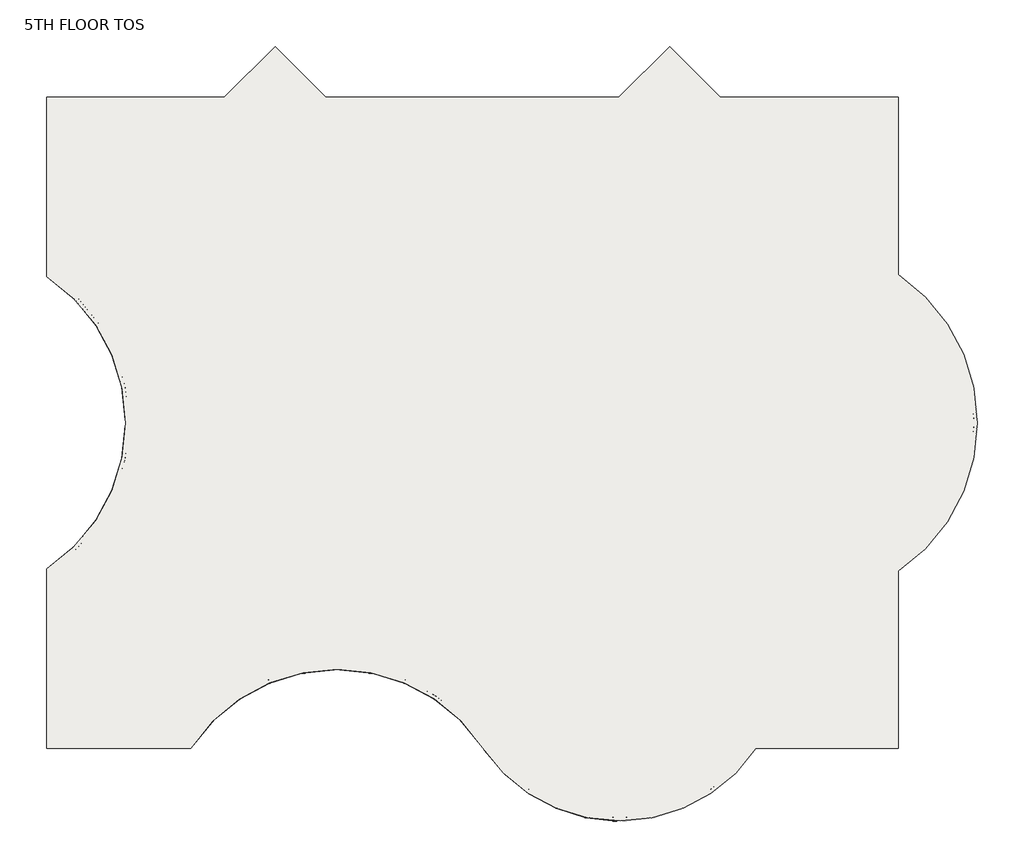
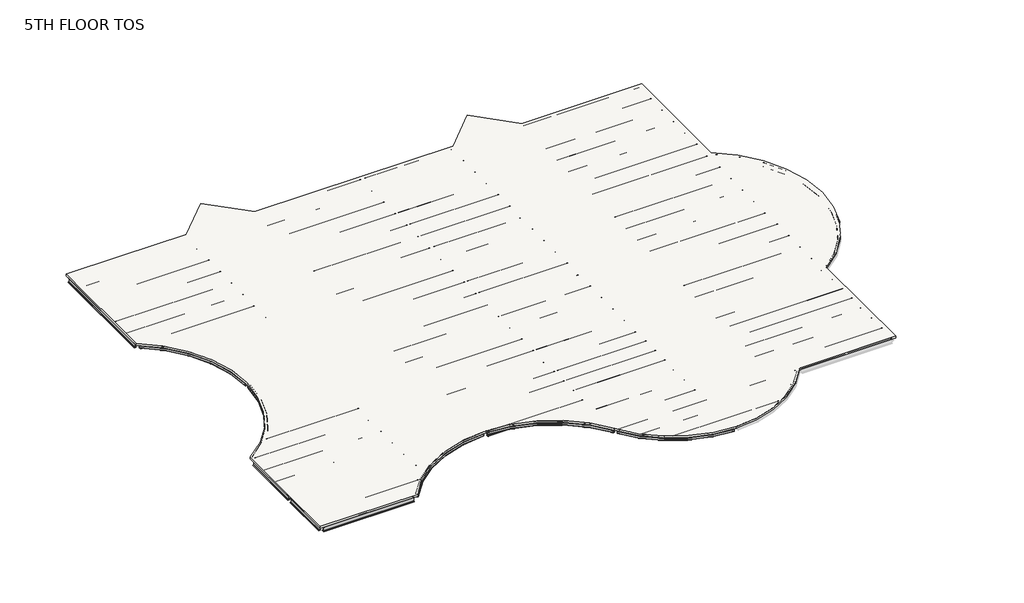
# One storey, part 1 of 2: 86 beams, 1 slab.
"""IFC4 building model written with IfcOpenShell, lengths in millimetres."""

from ifc_helpers import new_model, si_unit, frame, origin, place, context, project, spatial, polyline, circle_curve, transform, mapped, element, save
from ifc_brep_helpers import plane_surface, cylinder_surface, revolved_surface, advanced_brep
from components import m_hss_square_hss203_2x203_2x9_5_914ff4eb, m_hss_square_hss203_2x203_2x9_5_0e3d8e6e, m_hss_square_hss203_2x203_2x9_5_16dc1c03, m_hss_square_hss203_2x203_2x9_5_18346204, m_hss_square_hss203_2x203_2x9_5_d5f1e8c4, ub_universal_beams_ub254x102x28_4e7f3726, ub_universal_beams_ub305x165x40_c4d0385b, ub_universal_beams_ub305x165x40_d3abc31d, ub_universal_beams_ub305x165x40_0c73730f, ub_universal_beams_ub305x165x40_2a963f0c, ub_universal_beams_ub305x165x40_0a5f2f96, ub_universal_beams_ub305x165x40_d1f7c369, ub_universal_beams_ub305x165x40_83d7b7d5, ub_universal_beams_ub305x165x40_729a4ea5, ub_universal_beams_ub305x165x40_71dfa851, ub_universal_beams_ub305x165x40_619b5398, ub_universal_beams_ub305x165x40_c3492db1, ub_universal_beams_ub305x165x40_8f1c350d, ub_universal_beams_ub305x165x40_3afb5f90, ub_universal_beams_ub305x165x40_767d1929, ub_universal_beams_ub305x165x40_5941ca45, ub_universal_beams_ub356x171x51_ef72dcdd, ub_universal_beams_ub356x171x51_7f80702c, ub_universal_beams_ub356x171x51_dfc36663, ub_universal_beams_ub356x171x51_405a853e, ub_universal_beams_ub356x171x51_e47b7055, ub_universal_beams_ub356x171x51_e97f8d2e, ub_universal_beams_ub356x171x51_11d6b780, ub_universal_beams_ub356x171x51_76b2d20b, ub_universal_beams_ub356x171x51_145ecd4b, ub_universal_beams_ub356x171x51_c7dff8d2, ub_universal_beams_ub356x171x51_834c6e34, ub_universal_beams_ub356x171x51_a38b99de, ub_universal_beams_ub356x171x51_d8f4cdde, ub_universal_beams_ub356x171x51_8094f821, ub_universal_beams_ub356x171x51_e661f2e4, ub_universal_beams_ub356x171x51_3ee91673, ub_universal_beams_ub356x171x51_a871b283, ub_universal_beams_ub356x171x51_741bae58

model = new_model("IFC4")

# Units and contexts
model_context = context("Model", 3, world=origin())
ifc_project = project(units=[si_unit("LENGTHUNIT", "METRE", prefix="MILLI")], contexts=[model_context])

# Site, building, storey
site = spatial("IfcSite", under=ifc_project)
building = spatial("IfcBuilding", under=site)
storey = spatial("IfcBuildingStorey", under=building, Name="5TH FLOOR TOS", Elevation=22707.6)

# Beams
placement = place(None, origin())
m_hss_square_hss203_2x203_2x9_5_shape = m_hss_square_hss203_2x203_2x9_5_914ff4eb(model_context)
element("IfcBeam", 1, ObjectType="M_HSS Square : HSS203.2X203.2X9.5", at=placement, inside=storey, context=model_context, shape_type="MappedRepresentation", body=[
    mapped(m_hss_square_hss203_2x203_2x9_5_shape, transform((22710.575, 155.575, 22606.1), x_axis=(-0.552849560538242, 0.8332810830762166, 0.0), y_axis=(-0.8332810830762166, -0.552849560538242, 0.0), z_axis=(0.0, 0.0, 1.0))),
])
m_hss_square_hss203_2x203_2x9_5_2_shape = m_hss_square_hss203_2x203_2x9_5_0e3d8e6e(model_context)
element("IfcBeam", 2, ObjectType="M_HSS Square : HSS203.2X203.2X9.5", at=placement, inside=storey, context=model_context, shape_type="MappedRepresentation", body=[
    mapped(m_hss_square_hss203_2x203_2x9_5_2_shape, transform((155.575, 9299.575, 22606.1), x_axis=(0.8332810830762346, 0.5528495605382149, 0.0), y_axis=(-0.5528495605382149, 0.8332810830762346, 0.0), z_axis=(0.0, 0.0, 1.0))),
])
m_hss_square_hss203_2x203_2x9_5_3_shape = m_hss_square_hss203_2x203_2x9_5_16dc1c03(model_context)
element("IfcBeam", 3, ObjectType="M_HSS Square : HSS203.2X203.2X9.5", at=placement, inside=storey, context=model_context, shape_type="MappedRepresentation", body=[
    mapped(m_hss_square_hss203_2x203_2x9_5_3_shape, transform((155.575, 24539.575, 22606.1), x_axis=(0.8332810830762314, -0.5528495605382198, 0.0), y_axis=(0.5528495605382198, 0.8332810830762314, 0.0), z_axis=(0.0, 0.0, 1.0))),
])
m_hss_square_hss203_2x203_2x9_5_4_shape = m_hss_square_hss203_2x203_2x9_5_18346204(model_context)
element("IfcBeam", 4, ObjectType="M_HSS Square : HSS203.2X203.2X9.5", at=placement, inside=storey, context=model_context, shape_type="MappedRepresentation", body=[
    mapped(m_hss_square_hss203_2x203_2x9_5_4_shape, transform((29734.7266693, -3601.398624, 22606.1), x_axis=(-0.9999968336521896, -0.0025164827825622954, 0.0), y_axis=(0.0025164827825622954, -0.9999968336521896, 0.0), z_axis=(0.0, 0.0, 1.0))),
])
m_hss_square_hss203_2x203_2x9_5_5_shape = m_hss_square_hss203_2x203_2x9_5_d5f1e8c4(model_context)
element("IfcBeam", 5, ObjectType="M_HSS Square : HSS203.2X203.2X9.5", at=placement, inside=storey, context=model_context, shape_type="MappedRepresentation", body=[
    mapped(m_hss_square_hss203_2x203_2x9_5_5_shape, transform((15096.4572854, 4244.5731081, 22606.1), x_axis=(-0.9999997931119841, 0.0006432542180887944, 0.0), y_axis=(-0.0006432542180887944, -0.9999997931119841, 0.0), z_axis=(0.0, 0.0, 1.0))),
])
ub_universal_beams_ub254x102x28_shape = ub_universal_beams_ub254x102x28_4e7f3726(model_context)
element("IfcBeam", 6, ObjectType="UB-Universal Beams : UB254x102x28", at=placement, inside=storey, context=model_context, shape_type="MappedRepresentation", body=[
    mapped(ub_universal_beams_ub254x102x28_shape, transform((9299.575, 3210.915913, 22577.4), x_axis=(0.0, -1.0, 0.0), y_axis=(1.0, 0.0, 0.0), z_axis=(0.0, 0.0, 1.0))),
])
ub_universal_beams_ub305x165x40_shape = ub_universal_beams_ub305x165x40_c4d0385b(model_context)
element("IfcBeam", 7, ObjectType="UB-Universal Beams : UB305x165x40", at=placement, inside=storey, context=model_context, shape_type="MappedRepresentation", body=[
    mapped(ub_universal_beams_ub305x165x40_shape, transform((4727.575, 30635.575, 22555.9), x_axis=(1.0, 0.0, 0.0), y_axis=(0.0, 1.0, 0.0), z_axis=(0.0, 0.0, 1.0))),
])
element("IfcBeam", 8, ObjectType="UB-Universal Beams : UB305x165x40", at=placement, inside=storey, context=model_context, shape_type="MappedRepresentation", body=[
    mapped(ub_universal_beams_ub305x165x40_shape, transform((4727.575, 29111.575, 22555.9), x_axis=(1.0, 0.0, 0.0), y_axis=(0.0, 1.0, 0.0), z_axis=(0.0, 0.0, 1.0))),
])
element("IfcBeam", 9, ObjectType="UB-Universal Beams : UB305x165x40", at=placement, inside=storey, context=model_context, shape_type="MappedRepresentation", body=[
    mapped(ub_universal_beams_ub305x165x40_shape, transform((4727.575, 27587.575, 22555.9), x_axis=(1.0, 0.0, 0.0), y_axis=(0.0, 1.0, 0.0), z_axis=(0.0, 0.0, 1.0))),
])
element("IfcBeam", 10, ObjectType="UB-Universal Beams : UB305x165x40", at=placement, inside=storey, context=model_context, shape_type="MappedRepresentation", body=[
    mapped(ub_universal_beams_ub305x165x40_shape, transform((4727.575, 26063.575, 22555.9), x_axis=(1.0, 0.0, 0.0), y_axis=(0.0, 1.0, 0.0), z_axis=(0.0, 0.0, 1.0))),
])
element("IfcBeam", 11, ObjectType="UB-Universal Beams : UB305x165x40", at=placement, inside=storey, context=model_context, shape_type="MappedRepresentation", body=[
    mapped(ub_universal_beams_ub305x165x40_shape, transform((4727.575, 4727.575, 22555.9), x_axis=(-1.0, 0.0, 0.0), y_axis=(0.0, -1.0, 0.0), z_axis=(0.0, 0.0, 1.0))),
])
element("IfcBeam", 12, ObjectType="UB-Universal Beams : UB305x165x40", at=placement, inside=storey, context=model_context, shape_type="MappedRepresentation", body=[
    mapped(ub_universal_beams_ub305x165x40_shape, transform((4727.575, 6251.575, 22555.9), x_axis=(-1.0, 0.0, 0.0), y_axis=(0.0, -1.0, 0.0), z_axis=(0.0, 0.0, 1.0))),
])
element("IfcBeam", 13, ObjectType="UB-Universal Beams : UB305x165x40", at=placement, inside=storey, context=model_context, shape_type="MappedRepresentation", body=[
    mapped(ub_universal_beams_ub305x165x40_shape, transform((4727.575, 7775.575, 22555.9), x_axis=(-1.0, 0.0, 0.0), y_axis=(0.0, -1.0, 0.0), z_axis=(0.0, 0.0, 1.0))),
])
ub_universal_beams_ub305x165x40_2_shape = ub_universal_beams_ub305x165x40_d3abc31d(model_context)
element("IfcBeam", 14, ObjectType="UB-Universal Beams : UB305x165x40", at=placement, inside=storey, context=model_context, shape_type="MappedRepresentation", body=[
    mapped(ub_universal_beams_ub305x165x40_2_shape, transform((11885.575, 28938.325, 22555.9), x_axis=(1.0, 0.0, 0.0), y_axis=(0.0, 1.0, 0.0), z_axis=(0.0, 0.0, 1.0))),
])
element("IfcBeam", 15, ObjectType="UB-Universal Beams : UB305x165x40", at=placement, inside=storey, context=model_context, shape_type="MappedRepresentation", body=[
    mapped(ub_universal_beams_ub305x165x40_2_shape, transform((11885.575, 27472.075, 22555.9), x_axis=(1.0, 0.0, 0.0), y_axis=(0.0, 1.0, 0.0), z_axis=(0.0, 0.0, 1.0))),
])
element("IfcBeam", 16, ObjectType="UB-Universal Beams : UB305x165x40", at=placement, inside=storey, context=model_context, shape_type="MappedRepresentation", body=[
    mapped(ub_universal_beams_ub305x165x40_2_shape, transform((11885.575, 26005.825, 22555.9), x_axis=(1.0, 0.0, 0.0), y_axis=(0.0, 1.0, 0.0), z_axis=(0.0, 0.0, 1.0))),
])
element("IfcBeam", 17, ObjectType="UB-Universal Beams : UB305x165x40", at=placement, inside=storey, context=model_context, shape_type="MappedRepresentation", body=[
    mapped(ub_universal_beams_ub305x165x40_2_shape, transform((11885.575, 23015.575, 22555.9), x_axis=(1.0, 0.0, 0.0), y_axis=(0.0, 1.0, 0.0), z_axis=(0.0, 0.0, 1.0))),
])
element("IfcBeam", 18, ObjectType="UB-Universal Beams : UB305x165x40", at=placement, inside=storey, context=model_context, shape_type="MappedRepresentation", body=[
    mapped(ub_universal_beams_ub305x165x40_2_shape, transform((11885.575, 21491.575, 22555.9), x_axis=(1.0, 0.0, 0.0), y_axis=(0.0, 1.0, 0.0), z_axis=(0.0, 0.0, 1.0))),
])
element("IfcBeam", 19, ObjectType="UB-Universal Beams : UB305x165x40", at=placement, inside=storey, context=model_context, shape_type="MappedRepresentation", body=[
    mapped(ub_universal_beams_ub305x165x40_2_shape, transform((11885.575, 19967.575, 22555.9), x_axis=(1.0, 0.0, 0.0), y_axis=(0.0, 1.0, 0.0), z_axis=(0.0, 0.0, 1.0))),
])
element("IfcBeam", 20, ObjectType="UB-Universal Beams : UB305x165x40", at=placement, inside=storey, context=model_context, shape_type="MappedRepresentation", body=[
    mapped(ub_universal_beams_ub305x165x40_2_shape, transform((11885.575, 18443.575, 22555.9), x_axis=(1.0, 0.0, 0.0), y_axis=(0.0, 1.0, 0.0), z_axis=(0.0, 0.0, 1.0))),
])
element("IfcBeam", 21, ObjectType="UB-Universal Beams : UB305x165x40", at=placement, inside=storey, context=model_context, shape_type="MappedRepresentation", body=[
    mapped(ub_universal_beams_ub305x165x40_2_shape, transform((11885.575, 15395.575, 22555.9), x_axis=(1.0, 0.0, 0.0), y_axis=(0.0, 1.0, 0.0), z_axis=(0.0, 0.0, 1.0))),
])
element("IfcBeam", 22, ObjectType="UB-Universal Beams : UB305x165x40", at=placement, inside=storey, context=model_context, shape_type="MappedRepresentation", body=[
    mapped(ub_universal_beams_ub305x165x40_2_shape, transform((11885.575, 13871.575, 22555.9), x_axis=(1.0, 0.0, 0.0), y_axis=(0.0, 1.0, 0.0), z_axis=(0.0, 0.0, 1.0))),
])
element("IfcBeam", 23, ObjectType="UB-Universal Beams : UB305x165x40", at=placement, inside=storey, context=model_context, shape_type="MappedRepresentation", body=[
    mapped(ub_universal_beams_ub305x165x40_2_shape, transform((11885.575, 12347.575, 22555.9), x_axis=(1.0, 0.0, 0.0), y_axis=(0.0, 1.0, 0.0), z_axis=(0.0, 0.0, 1.0))),
])
element("IfcBeam", 24, ObjectType="UB-Universal Beams : UB305x165x40", at=placement, inside=storey, context=model_context, shape_type="MappedRepresentation", body=[
    mapped(ub_universal_beams_ub305x165x40_2_shape, transform((11885.575, 10823.575, 22555.9), x_axis=(1.0, 0.0, 0.0), y_axis=(0.0, 1.0, 0.0), z_axis=(0.0, 0.0, 1.0))),
])
element("IfcBeam", 25, ObjectType="UB-Universal Beams : UB305x165x40", at=placement, inside=storey, context=model_context, shape_type="MappedRepresentation", body=[
    mapped(ub_universal_beams_ub305x165x40_2_shape, transform((11885.575, 5026.1840956, 22555.9), x_axis=(-1.0, 0.0, 0.0), y_axis=(0.0, -1.0, 0.0), z_axis=(0.0, 0.0, 1.0))),
])
element("IfcBeam", 26, ObjectType="UB-Universal Beams : UB305x165x40", at=placement, inside=storey, context=model_context, shape_type="MappedRepresentation", body=[
    mapped(ub_universal_beams_ub305x165x40_2_shape, transform((11885.575, 6450.6477304, 22555.9), x_axis=(-1.0, 0.0, 0.0), y_axis=(0.0, -1.0, 0.0), z_axis=(0.0, 0.0, 1.0))),
])
element("IfcBeam", 27, ObjectType="UB-Universal Beams : UB305x165x40", at=placement, inside=storey, context=model_context, shape_type="MappedRepresentation", body=[
    mapped(ub_universal_beams_ub305x165x40_2_shape, transform((11885.575, 7875.1113652, 22555.9), x_axis=(-1.0, 0.0, 0.0), y_axis=(0.0, -1.0, 0.0), z_axis=(0.0, 0.0, 1.0))),
])
ub_universal_beams_ub305x165x40_3_shape = ub_universal_beams_ub305x165x40_0c73730f(model_context)
element("IfcBeam", 28, ObjectType="UB-Universal Beams : UB305x165x40", at=placement, inside=storey, context=model_context, shape_type="MappedRepresentation", body=[
    mapped(ub_universal_beams_ub305x165x40_3_shape, transform((18591.075, 5492.5943214, 22555.9), x_axis=(-1.0, 0.0, 0.0), y_axis=(0.0, -1.0, 0.0), z_axis=(0.0, 0.0, 1.0))),
])
element("IfcBeam", 29, ObjectType="UB-Universal Beams : UB305x165x40", at=placement, inside=storey, context=model_context, shape_type="MappedRepresentation", body=[
    mapped(ub_universal_beams_ub305x165x40_3_shape, transform((18591.075, 6761.5878809, 22555.9), x_axis=(-1.0, 0.0, 0.0), y_axis=(0.0, -1.0, 0.0), z_axis=(0.0, 0.0, 1.0))),
])
element("IfcBeam", 30, ObjectType="UB-Universal Beams : UB305x165x40", at=placement, inside=storey, context=model_context, shape_type="MappedRepresentation", body=[
    mapped(ub_universal_beams_ub305x165x40_3_shape, transform((18591.075, 8030.5814405, 22555.9), x_axis=(-1.0, 0.0, 0.0), y_axis=(0.0, -1.0, 0.0), z_axis=(0.0, 0.0, 1.0))),
])
element("IfcBeam", 31, ObjectType="UB-Universal Beams : UB305x165x40", at=placement, inside=storey, context=model_context, shape_type="MappedRepresentation", body=[
    mapped(ub_universal_beams_ub305x165x40_3_shape, transform((18591.075, 15395.575, 22555.9), x_axis=(1.0, 0.0, 0.0), y_axis=(0.0, 1.0, 0.0), z_axis=(0.0, 0.0, 1.0))),
])
element("IfcBeam", 32, ObjectType="UB-Universal Beams : UB305x165x40", at=placement, inside=storey, context=model_context, shape_type="MappedRepresentation", body=[
    mapped(ub_universal_beams_ub305x165x40_3_shape, transform((18591.075, 13871.575, 22555.9), x_axis=(1.0, 0.0, 0.0), y_axis=(0.0, 1.0, 0.0), z_axis=(0.0, 0.0, 1.0))),
])
element("IfcBeam", 33, ObjectType="UB-Universal Beams : UB305x165x40", at=placement, inside=storey, context=model_context, shape_type="MappedRepresentation", body=[
    mapped(ub_universal_beams_ub305x165x40_3_shape, transform((18591.075, 12347.575, 22555.9), x_axis=(1.0, 0.0, 0.0), y_axis=(0.0, 1.0, 0.0), z_axis=(0.0, 0.0, 1.0))),
])
element("IfcBeam", 34, ObjectType="UB-Universal Beams : UB305x165x40", at=placement, inside=storey, context=model_context, shape_type="MappedRepresentation", body=[
    mapped(ub_universal_beams_ub305x165x40_3_shape, transform((18591.075, 10823.575, 22555.9), x_axis=(1.0, 0.0, 0.0), y_axis=(0.0, 1.0, 0.0), z_axis=(0.0, 0.0, 1.0))),
])
ub_universal_beams_ub305x165x40_4_shape = ub_universal_beams_ub305x165x40_2a963f0c(model_context)
element("IfcBeam", 35, ObjectType="UB-Universal Beams : UB305x165x40", at=placement, inside=storey, context=model_context, shape_type="MappedRepresentation", body=[
    mapped(ub_universal_beams_ub305x165x40_4_shape, transform((26211.075, 15395.575, 22555.9), x_axis=(1.0, 0.0, 0.0), y_axis=(0.0, 1.0, 0.0), z_axis=(0.0, 0.0, 1.0))),
])
element("IfcBeam", 36, ObjectType="UB-Universal Beams : UB305x165x40", at=placement, inside=storey, context=model_context, shape_type="MappedRepresentation", body=[
    mapped(ub_universal_beams_ub305x165x40_4_shape, transform((26211.075, 13871.575, 22555.9), x_axis=(1.0, 0.0, 0.0), y_axis=(0.0, 1.0, 0.0), z_axis=(0.0, 0.0, 1.0))),
])
element("IfcBeam", 37, ObjectType="UB-Universal Beams : UB305x165x40", at=placement, inside=storey, context=model_context, shape_type="MappedRepresentation", body=[
    mapped(ub_universal_beams_ub305x165x40_4_shape, transform((26211.075, 12347.575, 22555.9), x_axis=(1.0, 0.0, 0.0), y_axis=(0.0, 1.0, 0.0), z_axis=(0.0, 0.0, 1.0))),
])
element("IfcBeam", 38, ObjectType="UB-Universal Beams : UB305x165x40", at=placement, inside=storey, context=model_context, shape_type="MappedRepresentation", body=[
    mapped(ub_universal_beams_ub305x165x40_4_shape, transform((26211.075, 10823.575, 22555.9), x_axis=(1.0, 0.0, 0.0), y_axis=(0.0, 1.0, 0.0), z_axis=(0.0, 0.0, 1.0))),
])
element("IfcBeam", 39, ObjectType="UB-Universal Beams : UB305x165x40", at=placement, inside=storey, context=model_context, shape_type="MappedRepresentation", body=[
    mapped(ub_universal_beams_ub305x165x40_4_shape, transform((26211.075, 5508.325, 22555.9), x_axis=(-1.0, 0.0, 0.0), y_axis=(0.0, -1.0, 0.0), z_axis=(0.0, 0.0, 1.0))),
])
element("IfcBeam", 40, ObjectType="UB-Universal Beams : UB305x165x40", at=placement, inside=storey, context=model_context, shape_type="MappedRepresentation", body=[
    mapped(ub_universal_beams_ub305x165x40_4_shape, transform((26211.075, 6772.075, 22555.9), x_axis=(-1.0, 0.0, 0.0), y_axis=(0.0, -1.0, 0.0), z_axis=(0.0, 0.0, 1.0))),
])
element("IfcBeam", 41, ObjectType="UB-Universal Beams : UB305x165x40", at=placement, inside=storey, context=model_context, shape_type="MappedRepresentation", body=[
    mapped(ub_universal_beams_ub305x165x40_4_shape, transform((26211.075, 8035.825, 22555.9), x_axis=(-1.0, 0.0, 0.0), y_axis=(0.0, -1.0, 0.0), z_axis=(0.0, 0.0, 1.0))),
])
element("IfcBeam", 42, ObjectType="UB-Universal Beams : UB305x165x40", at=placement, inside=storey, context=model_context, shape_type="MappedRepresentation", body=[
    mapped(ub_universal_beams_ub305x165x40_4_shape, transform((26211.075, 1518.575, 22555.9), x_axis=(-1.0, 0.0, 0.0), y_axis=(0.0, -1.0, 0.0), z_axis=(0.0, 0.0, 1.0))),
])
element("IfcBeam", 43, ObjectType="UB-Universal Beams : UB305x165x40", at=placement, inside=storey, context=model_context, shape_type="MappedRepresentation", body=[
    mapped(ub_universal_beams_ub305x165x40_4_shape, transform((26211.075, 2881.575, 22555.9), x_axis=(-1.0, 0.0, 0.0), y_axis=(0.0, -1.0, 0.0), z_axis=(0.0, 0.0, 1.0))),
])
ub_universal_beams_ub305x165x40_5_shape = ub_universal_beams_ub305x165x40_0a5f2f96(model_context)
element("IfcBeam", 44, ObjectType="UB-Universal Beams : UB305x165x40", at=placement, inside=storey, context=model_context, shape_type="MappedRepresentation", body=[
    mapped(ub_universal_beams_ub305x165x40_5_shape, transform((29713.575, -2349.0918253, 22555.9), x_axis=(-1.0, 0.0, 0.0), y_axis=(0.0, -1.0, 0.0), z_axis=(0.0, 0.0, 1.0))),
])
ub_universal_beams_ub305x165x40_6_shape = ub_universal_beams_ub305x165x40_d1f7c369(model_context)
element("IfcBeam", 45, ObjectType="UB-Universal Beams : UB305x165x40", at=placement, inside=storey, context=model_context, shape_type="MappedRepresentation", body=[
    mapped(ub_universal_beams_ub305x165x40_6_shape, transform((29713.575, -1096.7584126, 22555.9), x_axis=(-1.0, 0.0, 0.0), y_axis=(0.0, -1.0, 0.0), z_axis=(0.0, 0.0, 1.0))),
])
ub_universal_beams_ub305x165x40_7_shape = ub_universal_beams_ub305x165x40_83d7b7d5(model_context)
element("IfcBeam", 46, ObjectType="UB-Universal Beams : UB305x165x40", at=placement, inside=storey, context=model_context, shape_type="MappedRepresentation", body=[
    mapped(ub_universal_beams_ub305x165x40_7_shape, transform((22157.3041106, 1518.575, 22555.9), x_axis=(-1.0, 0.0, 0.0), y_axis=(0.0, -1.0, 0.0), z_axis=(0.0, 0.0, 1.0))),
])
ub_universal_beams_ub305x165x40_8_shape = ub_universal_beams_ub305x165x40_729a4ea5(model_context)
element("IfcBeam", 47, ObjectType="UB-Universal Beams : UB305x165x40", at=placement, inside=storey, context=model_context, shape_type="MappedRepresentation", body=[
    mapped(ub_universal_beams_ub305x165x40_8_shape, transform((21302.1545844, 2881.575, 22555.9), x_axis=(-1.0, 0.0, 0.0), y_axis=(0.0, -1.0, 0.0), z_axis=(0.0, 0.0, 1.0))),
])
ub_universal_beams_ub305x165x40_9_shape = ub_universal_beams_ub305x165x40_71dfa851(model_context)
element("IfcBeam", 48, ObjectType="UB-Universal Beams : UB305x165x40", at=placement, inside=storey, context=model_context, shape_type="MappedRepresentation", body=[
    mapped(ub_universal_beams_ub305x165x40_9_shape, transform((10511.0323166, 3601.7204608, 22555.9), x_axis=(-1.0, 0.0, 0.0), y_axis=(0.0, -1.0, 0.0), z_axis=(0.0, 0.0, 1.0))),
])
ub_universal_beams_ub305x165x40_10_shape = ub_universal_beams_ub305x165x40_619b5398(model_context)
element("IfcBeam", 49, ObjectType="UB-Universal Beams : UB305x165x40", at=placement, inside=storey, context=model_context, shape_type="MappedRepresentation", body=[
    mapped(ub_universal_beams_ub305x165x40_10_shape, transform((4447.6838282, 1679.575, 22555.9), x_axis=(-1.0, 0.0, 0.0), y_axis=(0.0, -1.0, 0.0), z_axis=(0.0, 0.0, 1.0))),
])
ub_universal_beams_ub305x165x40_11_shape = ub_universal_beams_ub305x165x40_c3492db1(model_context)
element("IfcBeam", 50, ObjectType="UB-Universal Beams : UB305x165x40", at=placement, inside=storey, context=model_context, shape_type="MappedRepresentation", body=[
    mapped(ub_universal_beams_ub305x165x40_11_shape, transform((4727.575, 3203.575, 22555.9), x_axis=(-1.0, 0.0, 0.0), y_axis=(0.0, -1.0, 0.0), z_axis=(0.0, 0.0, 1.0))),
])
ub_universal_beams_ub305x165x40_12_shape = ub_universal_beams_ub305x165x40_8f1c350d(model_context)
element("IfcBeam", 51, ObjectType="UB-Universal Beams : UB305x165x40", at=placement, inside=storey, context=model_context, shape_type="MappedRepresentation", body=[
    mapped(ub_universal_beams_ub305x165x40_12_shape, transform((6708.1318611, 15395.575, 22555.9), x_axis=(1.0, 0.0, 0.0), y_axis=(0.0, 1.0, 0.0), z_axis=(0.0, 0.0, 1.0))),
])
element("IfcBeam", 52, ObjectType="UB-Universal Beams : UB305x165x40", at=placement, inside=storey, context=model_context, shape_type="MappedRepresentation", body=[
    mapped(ub_universal_beams_ub305x165x40_12_shape, transform((6708.1318611, 18443.575, 22555.9), x_axis=(1.0, 0.0, 0.0), y_axis=(0.0, 1.0, 0.0), z_axis=(0.0, 0.0, 1.0))),
])
ub_universal_beams_ub305x165x40_13_shape = ub_universal_beams_ub305x165x40_3afb5f90(model_context)
element("IfcBeam", 53, ObjectType="UB-Universal Beams : UB305x165x40", at=placement, inside=storey, context=model_context, shape_type="MappedRepresentation", body=[
    mapped(ub_universal_beams_ub305x165x40_13_shape, transform((6510.6153272, 13871.575, 22555.9), x_axis=(1.0, 0.0, 0.0), y_axis=(0.0, 1.0, 0.0), z_axis=(0.0, 0.0, 1.0))),
])
element("IfcBeam", 54, ObjectType="UB-Universal Beams : UB305x165x40", at=placement, inside=storey, context=model_context, shape_type="MappedRepresentation", body=[
    mapped(ub_universal_beams_ub305x165x40_13_shape, transform((6510.6153272, 19967.575, 22555.9), x_axis=(1.0, 0.0, 0.0), y_axis=(0.0, 1.0, 0.0), z_axis=(0.0, 0.0, 1.0))),
])
ub_universal_beams_ub305x165x40_14_shape = ub_universal_beams_ub305x165x40_767d1929(model_context)
element("IfcBeam", 55, ObjectType="UB-Universal Beams : UB305x165x40", at=placement, inside=storey, context=model_context, shape_type="MappedRepresentation", body=[
    mapped(ub_universal_beams_ub305x165x40_14_shape, transform((6159.5874928, 12347.575, 22555.9), x_axis=(1.0, 0.0, 0.0), y_axis=(0.0, 1.0, 0.0), z_axis=(0.0, 0.0, 1.0))),
])
element("IfcBeam", 56, ObjectType="UB-Universal Beams : UB305x165x40", at=placement, inside=storey, context=model_context, shape_type="MappedRepresentation", body=[
    mapped(ub_universal_beams_ub305x165x40_14_shape, transform((6159.5874928, 21491.575, 22555.9), x_axis=(1.0, 0.0, 0.0), y_axis=(0.0, 1.0, 0.0), z_axis=(0.0, 0.0, 1.0))),
])
ub_universal_beams_ub305x165x40_15_shape = ub_universal_beams_ub305x165x40_5941ca45(model_context)
element("IfcBeam", 57, ObjectType="UB-Universal Beams : UB305x165x40", at=placement, inside=storey, context=model_context, shape_type="MappedRepresentation", body=[
    mapped(ub_universal_beams_ub305x165x40_15_shape, transform((5607.9405309, 10823.575, 22555.9), x_axis=(1.0, 0.0, 0.0), y_axis=(0.0, 1.0, 0.0), z_axis=(0.0, 0.0, 1.0))),
])
element("IfcBeam", 58, ObjectType="UB-Universal Beams : UB305x165x40", at=placement, inside=storey, context=model_context, shape_type="MappedRepresentation", body=[
    mapped(ub_universal_beams_ub305x165x40_15_shape, transform((5607.9405309, 23015.575, 22555.9), x_axis=(1.0, 0.0, 0.0), y_axis=(0.0, 1.0, 0.0), z_axis=(0.0, 0.0, 1.0))),
])
ub_universal_beams_ub356x171x51_shape = ub_universal_beams_ub356x171x51_ef72dcdd(model_context)
element("IfcBeam", 59, ObjectType="UB-Universal Beams : UB356x171x51", at=placement, inside=storey, context=model_context, shape_type="MappedRepresentation", body=[
    mapped(ub_universal_beams_ub356x171x51_shape, transform((9299.575, 6772.075, 22530.1), x_axis=(0.0, -1.0, 0.0), y_axis=(1.0, 0.0, 0.0), z_axis=(0.0, 0.0, 1.0))),
])
element("IfcBeam", 60, ObjectType="UB-Universal Beams : UB356x171x51", at=placement, inside=storey, context=model_context, shape_type="MappedRepresentation", body=[
    mapped(ub_universal_beams_ub356x171x51_shape, transform((29711.575, 6772.075, 22530.1), x_axis=(0.0, 1.0, 0.0), y_axis=(-1.0, 0.0, 0.0), z_axis=(0.0, 0.0, 1.0))),
])
element("IfcBeam", 61, ObjectType="UB-Universal Beams : UB356x171x51", at=placement, inside=storey, context=model_context, shape_type="MappedRepresentation", body=[
    mapped(ub_universal_beams_ub356x171x51_shape, transform((22710.575, 6772.075, 22530.1), x_axis=(0.0, -1.0, 0.0), y_axis=(1.0, 0.0, 0.0), z_axis=(0.0, 0.0, 1.0))),
])
ub_universal_beams_ub356x171x51_2_shape = ub_universal_beams_ub356x171x51_7f80702c(model_context)
element("IfcBeam", 62, ObjectType="UB-Universal Beams : UB356x171x51", at=placement, inside=storey, context=model_context, shape_type="MappedRepresentation", body=[
    mapped(ub_universal_beams_ub356x171x51_2_shape, transform((3813.075, 155.575, 22530.1), x_axis=(-1.0, 0.0, 0.0), y_axis=(0.0, -1.0, 0.0), z_axis=(0.0, 0.0, 1.0))),
])
ub_universal_beams_ub356x171x51_3_shape = ub_universal_beams_ub356x171x51_dfc36663(model_context)
element("IfcBeam", 63, ObjectType="UB-Universal Beams : UB356x171x51", at=placement, inside=storey, context=model_context, shape_type="MappedRepresentation", body=[
    mapped(ub_universal_beams_ub356x171x51_3_shape, transform((155.575, 2200.075, 22530.1), x_axis=(0.0, 1.0, 0.0), y_axis=(-1.0, 0.0, 0.0), z_axis=(0.0, 0.0, 1.0))),
])
ub_universal_beams_ub356x171x51_4_shape = ub_universal_beams_ub356x171x51_405a853e(model_context)
element("IfcBeam", 64, ObjectType="UB-Universal Beams : UB356x171x51", at=placement, inside=storey, context=model_context, shape_type="MappedRepresentation", body=[
    mapped(ub_universal_beams_ub356x171x51_4_shape, transform((155.575, 6772.075, 22530.1), x_axis=(0.0, 1.0, 0.0), y_axis=(-1.0, 0.0, 0.0), z_axis=(0.0, 0.0, 1.0))),
])
ub_universal_beams_ub356x171x51_5_shape = ub_universal_beams_ub356x171x51_e47b7055(model_context)
element("IfcBeam", 65, ObjectType="UB-Universal Beams : UB356x171x51", at=placement, inside=storey, context=model_context, shape_type="MappedRepresentation", body=[
    mapped(ub_universal_beams_ub356x171x51_5_shape, transform((155.575, 29111.575, 22530.1), x_axis=(0.0, 1.0, 0.0), y_axis=(-1.0, 0.0, 0.0), z_axis=(0.0, 0.0, 1.0))),
])
ub_universal_beams_ub356x171x51_6_shape = ub_universal_beams_ub356x171x51_e97f8d2e(model_context)
element("IfcBeam", 66, ObjectType="UB-Universal Beams : UB356x171x51", at=placement, inside=storey, context=model_context, shape_type="MappedRepresentation", body=[
    mapped(ub_universal_beams_ub356x171x51_6_shape, transform((4727.575, 24539.575, 22530.1), x_axis=(1.0, 0.0, 0.0), y_axis=(0.0, 1.0, 0.0), z_axis=(0.0, 0.0, 1.0))),
])
ub_universal_beams_ub356x171x51_7_shape = ub_universal_beams_ub356x171x51_11d6b780(model_context)
element("IfcBeam", 67, ObjectType="UB-Universal Beams : UB356x171x51", at=placement, inside=storey, context=model_context, shape_type="MappedRepresentation", body=[
    mapped(ub_universal_beams_ub356x171x51_7_shape, transform((11885.575, 24539.575, 22530.1), x_axis=(1.0, 0.0, 0.0), y_axis=(0.0, 1.0, 0.0), z_axis=(0.0, 0.0, 1.0))),
])
element("IfcBeam", 68, ObjectType="UB-Universal Beams : UB356x171x51", at=placement, inside=storey, context=model_context, shape_type="MappedRepresentation", body=[
    mapped(ub_universal_beams_ub356x171x51_7_shape, transform((11885.575, 9299.575, 22530.1), x_axis=(-1.0, 0.0, 0.0), y_axis=(0.0, -1.0, 0.0), z_axis=(0.0, 0.0, 1.0))),
])
element("IfcBeam", 69, ObjectType="UB-Universal Beams : UB356x171x51", at=placement, inside=storey, context=model_context, shape_type="MappedRepresentation", body=[
    mapped(ub_universal_beams_ub356x171x51_7_shape, transform((11885.575, 16919.575, 22530.1), x_axis=(1.0, 0.0, 0.0), y_axis=(0.0, 1.0, 0.0), z_axis=(0.0, 0.0, 1.0))),
])
ub_universal_beams_ub356x171x51_8_shape = ub_universal_beams_ub356x171x51_76b2d20b(model_context)
element("IfcBeam", 70, ObjectType="UB-Universal Beams : UB356x171x51", at=placement, inside=storey, context=model_context, shape_type="MappedRepresentation", body=[
    mapped(ub_universal_beams_ub356x171x51_8_shape, transform((18591.075, 9299.575, 22530.1), x_axis=(-1.0, 0.0, 0.0), y_axis=(0.0, -1.0, 0.0), z_axis=(0.0, 0.0, 1.0))),
])
ub_universal_beams_ub356x171x51_9_shape = ub_universal_beams_ub356x171x51_145ecd4b(model_context)
element("IfcBeam", 71, ObjectType="UB-Universal Beams : UB356x171x51", at=placement, inside=storey, context=model_context, shape_type="MappedRepresentation", body=[
    mapped(ub_universal_beams_ub356x171x51_9_shape, transform((26211.075, 9299.575, 22530.1), x_axis=(-1.0, 0.0, 0.0), y_axis=(0.0, -1.0, 0.0), z_axis=(0.0, 0.0, 1.0))),
])
element("IfcBeam", 72, ObjectType="UB-Universal Beams : UB356x171x51", at=placement, inside=storey, context=model_context, shape_type="MappedRepresentation", body=[
    mapped(ub_universal_beams_ub356x171x51_9_shape, transform((26211.075, 4244.575, 22530.1), x_axis=(-1.0, 0.0, 0.0), y_axis=(0.0, -1.0, 0.0), z_axis=(0.0, 0.0, 1.0))),
])
ub_universal_beams_ub356x171x51_10_shape = ub_universal_beams_ub356x171x51_c7dff8d2(model_context)
element("IfcBeam", 73, ObjectType="UB-Universal Beams : UB356x171x51", at=placement, inside=storey, context=model_context, shape_type="MappedRepresentation", body=[
    mapped(ub_universal_beams_ub356x171x51_10_shape, transform((4727.575, 9299.575, 22530.1), x_axis=(-1.0, 0.0, 0.0), y_axis=(0.0, -1.0, 0.0), z_axis=(0.0, 0.0, 1.0))),
])
ub_universal_beams_ub356x171x51_11_shape = ub_universal_beams_ub356x171x51_834c6e34(model_context)
element("IfcBeam", 74, ObjectType="UB-Universal Beams : UB356x171x51", at=placement, inside=storey, context=model_context, shape_type="MappedRepresentation", body=[
    mapped(ub_universal_beams_ub356x171x51_11_shape, transform((14471.575, 6761.5878809, 22530.1), x_axis=(0.0, -1.0, 0.0), y_axis=(1.0, 0.0, 0.0), z_axis=(0.0, 0.0, 1.0))),
])
ub_universal_beams_ub356x171x51_12_shape = ub_universal_beams_ub356x171x51_a38b99de(model_context)
element("IfcBeam", 75, ObjectType="UB-Universal Beams : UB356x171x51", at=placement, inside=storey, context=model_context, shape_type="MappedRepresentation", body=[
    mapped(ub_universal_beams_ub356x171x51_12_shape, transform((9299.575, 13109.575, 22530.1), x_axis=(0.0, 1.0, 0.0), y_axis=(-1.0, 0.0, 0.0), z_axis=(0.0, 0.0, 1.0))),
])
element("IfcBeam", 76, ObjectType="UB-Universal Beams : UB356x171x51", at=placement, inside=storey, context=model_context, shape_type="MappedRepresentation", body=[
    mapped(ub_universal_beams_ub356x171x51_12_shape, transform((9299.575, 20729.575, 22530.1), x_axis=(0.0, 1.0, 0.0), y_axis=(-1.0, 0.0, 0.0), z_axis=(0.0, 0.0, 1.0))),
])
element("IfcBeam", 77, ObjectType="UB-Universal Beams : UB356x171x51", at=placement, inside=storey, context=model_context, shape_type="MappedRepresentation", body=[
    mapped(ub_universal_beams_ub356x171x51_12_shape, transform((14471.575, 20729.575, 22530.1), x_axis=(0.0, -1.0, 0.0), y_axis=(1.0, 0.0, 0.0), z_axis=(0.0, 0.0, 1.0))),
])
element("IfcBeam", 78, ObjectType="UB-Universal Beams : UB356x171x51", at=placement, inside=storey, context=model_context, shape_type="MappedRepresentation", body=[
    mapped(ub_universal_beams_ub356x171x51_12_shape, transform((14471.575, 13109.575, 22530.1), x_axis=(0.0, -1.0, 0.0), y_axis=(1.0, 0.0, 0.0), z_axis=(0.0, 0.0, 1.0))),
])
element("IfcBeam", 79, ObjectType="UB-Universal Beams : UB356x171x51", at=placement, inside=storey, context=model_context, shape_type="MappedRepresentation", body=[
    mapped(ub_universal_beams_ub356x171x51_12_shape, transform((22710.575, 13109.575, 22530.1), x_axis=(0.0, -1.0, 0.0), y_axis=(1.0, 0.0, 0.0), z_axis=(0.0, 0.0, 1.0))),
])
element("IfcBeam", 80, ObjectType="UB-Universal Beams : UB356x171x51", at=placement, inside=storey, context=model_context, shape_type="MappedRepresentation", body=[
    mapped(ub_universal_beams_ub356x171x51_12_shape, transform((29711.575, 13109.575, 22530.1), x_axis=(0.0, 1.0, 0.0), y_axis=(-1.0, 0.0, 0.0), z_axis=(0.0, 0.0, 1.0))),
])
ub_universal_beams_ub356x171x51_13_shape = ub_universal_beams_ub356x171x51_d8f4cdde(model_context)
element("IfcBeam", 81, ObjectType="UB-Universal Beams : UB356x171x51", at=placement, inside=storey, context=model_context, shape_type="MappedRepresentation", body=[
    mapped(ub_universal_beams_ub356x171x51_13_shape, transform((9299.575, 29111.575, 22530.1), x_axis=(0.0, 1.0, 0.0), y_axis=(-1.0, 0.0, 0.0), z_axis=(0.0, 0.0, 1.0))),
])
ub_universal_beams_ub356x171x51_14_shape = ub_universal_beams_ub356x171x51_8094f821(model_context)
element("IfcBeam", 82, ObjectType="UB-Universal Beams : UB356x171x51", at=placement, inside=storey, context=model_context, shape_type="MappedRepresentation", body=[
    mapped(ub_universal_beams_ub356x171x51_14_shape, transform((6772.075, 16919.575, 22530.1), x_axis=(1.0, 0.0, 0.0), y_axis=(0.0, 1.0, 0.0), z_axis=(0.0, 0.0, 1.0))),
])
ub_universal_beams_ub356x171x51_15_shape = ub_universal_beams_ub356x171x51_e661f2e4(model_context)
element("IfcBeam", 83, ObjectType="UB-Universal Beams : UB356x171x51", at=placement, inside=storey, context=model_context, shape_type="MappedRepresentation", body=[
    mapped(ub_universal_beams_ub356x171x51_15_shape, transform((29713.575, 155.575, 22530.1), x_axis=(-1.0, 0.0, 0.0), y_axis=(0.0, -1.0, 0.0), z_axis=(0.0, 0.0, 1.0))),
])
ub_universal_beams_ub356x171x51_16_shape = ub_universal_beams_ub356x171x51_3ee91673(model_context)
element("IfcBeam", 84, ObjectType="UB-Universal Beams : UB356x171x51", at=placement, inside=storey, context=model_context, shape_type="MappedRepresentation", body=[
    mapped(ub_universal_beams_ub356x171x51_16_shape, transform((18900.575, 4244.575, 22530.1), x_axis=(-1.0, 0.0, 0.0), y_axis=(0.0, -1.0, 0.0), z_axis=(0.0, 0.0, 1.0))),
])
ub_universal_beams_ub356x171x51_17_shape = ub_universal_beams_ub356x171x51_a871b283(model_context)
element("IfcBeam", 85, ObjectType="UB-Universal Beams : UB356x171x51", at=placement, inside=storey, context=model_context, shape_type="MappedRepresentation", body=[
    mapped(ub_universal_beams_ub356x171x51_17_shape, transform((22710.575, 2200.075, 22530.1), x_axis=(0.0, -1.0, 0.0), y_axis=(1.0, 0.0, 0.0), z_axis=(0.0, 0.0, 1.0))),
])
ub_universal_beams_ub356x171x51_18_shape = ub_universal_beams_ub356x171x51_741bae58(model_context)
element("IfcBeam", 86, ObjectType="UB-Universal Beams : UB356x171x51", at=placement, inside=storey, context=model_context, shape_type="MappedRepresentation", body=[
    mapped(ub_universal_beams_ub356x171x51_18_shape, transform((29711.575, 2200.075, 22530.1), x_axis=(0.0, -1.0, 0.0), y_axis=(1.0, 0.0, 0.0), z_axis=(0.0, 0.0, 1.0))),
])

# Slab
element("IfcSlab", 87, ObjectType="152mm Concrete With 50mm Metal Deck", at=placement, inside=storey, context=model_context, shape_type="AdvancedBrep", body=[
    advanced_brep(
    [(69.575, 33769.575, 22707.6), (4244.575, 33769.575, 22707.6), (9263.9526336, 33769.575, 22707.6), (11885.575, 36391.1973664, 22707.6), (14507.1973664, 33769.575, 22707.6), (22710.575, 33769.575, 22707.6), (29675.9526336, 33769.575, 22707.6), (32297.575, 36391.1973664, 22707.6), (34919.1973664, 33769.575, 22707.6), (44113.575, 33769.575, 22707.6), (44113.575, 24585.5849139, 22707.6), (44113.575, 9253.5650861, 22707.6), (44113.575, 4244.575, 22707.6), (44113.575, 69.575, 22707.6), (36762.5616677, 69.575, 22707.6), (29734.9430869, -3687.3983517, 22707.6), (22638.9224102, 108.0154965, 22707.6), (15096.4019655, 4158.5731259, 22707.6), (7516.8644167, 69.575, 22707.6), (69.575, 69.575, 22707.6), (69.575, 4244.575, 22707.6), (69.575, 9345.8644167, 22707.6), (69.575, 24493.2855833, 22707.6), (69.575, 33769.575, 22859.6), (69.575, 24493.2855833, 22859.6), (69.575, 9345.8644167, 22859.6), (69.575, 4244.575, 22859.6), (69.575, 69.575, 22859.6), (7516.8644167, 69.575, 22859.6), (15096.4019655, 4158.5731259, 22859.6), (22638.9128269, 108.0299378, 22859.6), (29734.9430869, -3687.3983517, 22859.6), (36762.5616677, 69.575, 22859.6), (44113.575, 69.575, 22859.6), (44113.575, 4244.575, 22859.6), (44113.575, 9253.5650861, 22859.6), (44113.575, 24585.5849139, 22859.6), (44113.575, 33769.575, 22859.6), (34919.1973664, 33769.575, 22859.6), (32297.575, 36391.1973664, 22859.6), (29675.9526336, 33769.575, 22859.6), (22710.575, 33769.575, 22859.6), (14507.1973664, 33769.575, 22859.6), (11885.575, 36391.1973664, 22859.6), (9263.9526336, 33769.575, 22859.6), (4244.575, 33769.575, 22859.6)],
    [
        (0, 1),
        (1, 2),
        (2, 3),
        (3, 4),
        (4, 5),
        (5, 6),
        (6, 7),
        (7, 8),
        (8, 9),
        (9, 10),
        (10, 11, circle_curve(frame((38972.0016324, 16919.575, 22707.6), z_axis=(0.0, 0.0, -1.0), x_axis=(1.0, 0.0, 0.0)), 9230.5733676)),
        (11, 12),
        (12, 13),
        (13, 14),
        (14, 15, circle_curve(frame((29713.575, 4803.825732, 22707.6), z_axis=(0.0, 0.0, -1.0), x_axis=(1.0, 0.0, 0.0)), 8491.2509699)),
        (15, 16, circle_curve(frame((29713.575, 4803.825732, 22707.6), z_axis=(0.0, 0.0, -1.0), x_axis=(1.0, 0.0, 0.0)), 8491.2509699)),
        (16, 17, circle_curve(frame((15090.575, -4899.9983676, 22707.6), z_axis=(0.0, 0.0, 1.0), x_axis=(1.0, 0.0, 0.0)), 9058.5733676)),
        (17, 18, circle_curve(frame((15090.575, -4899.9983676, 22707.6), z_axis=(0.0, 0.0, 1.0), x_axis=(1.0, 0.0, 0.0)), 9058.5733676)),
        (18, 19),
        (19, 20),
        (20, 21),
        (21, 22, circle_curve(frame((-4899.9983676, 16919.575, 22707.6), z_axis=(0.0, 0.0, 1.0), x_axis=(1.0, 0.0, 0.0)), 9058.5733676)),
        (22, 0),
        (23, 24),
        (24, 25, circle_curve(frame((-4899.9983676, 16919.575, 22859.6), z_axis=(0.0, 0.0, -1.0), x_axis=(1.0, 0.0, 0.0)), 9058.5733676)),
        (25, 26),
        (26, 27),
        (27, 28),
        (28, 29, circle_curve(frame((15090.575, -4899.9983676, 22859.6), z_axis=(0.0, 0.0, -1.0), x_axis=(1.0, 0.0, 0.0)), 9058.5733676)),
        (29, 30, circle_curve(frame((15090.575, -4899.9983676, 22859.6), z_axis=(0.0, 0.0, -1.0), x_axis=(1.0, 0.0, 0.0)), 9058.5733676)),
        (30, 31, circle_curve(frame((29713.575, 4803.825732, 22859.6), z_axis=(0.0, 0.0, 1.0), x_axis=(1.0, 0.0, 0.0)), 8491.2509699)),
        (31, 32, circle_curve(frame((29713.575, 4803.825732, 22859.6), z_axis=(0.0, 0.0, 1.0), x_axis=(1.0, 0.0, 0.0)), 8491.2509699)),
        (32, 33),
        (33, 34),
        (34, 35),
        (35, 36, circle_curve(frame((38972.0016324, 16919.575, 22859.6), z_axis=(0.0, 0.0, 1.0), x_axis=(1.0, 0.0, 0.0)), 9230.5733676)),
        (36, 37),
        (37, 38),
        (38, 39),
        (39, 40),
        (40, 41),
        (41, 42),
        (42, 43),
        (43, 44),
        (44, 45),
        (45, 23),
        (0, 23),
        (45, 1),
        (44, 2),
        (43, 3),
        (42, 4),
        (41, 5),
        (40, 6),
        (39, 7),
        (38, 8),
        (37, 9),
        (36, 10),
        (35, 11),
        (34, 12),
        (33, 13),
        (32, 14),
        (31, 15),
        (30, 16),
        (29, 17),
        (28, 18),
        (27, 19),
        (26, 20),
        (25, 21),
        (24, 22),
    ],
    [
        plane_surface(frame((155.575, 33769.575, 22707.6), z_axis=(0.0, 0.0, -1.0), x_axis=(1.0, 0.0, 0.0))),
        plane_surface(frame((155.575, 33769.575, 22859.6), z_axis=(0.0, 0.0, 1.0), x_axis=(-1.0, 0.0, 0.0))),
        plane_surface(frame((69.575, 33769.575, 22707.6), z_axis=(0.0, 1.0, 0.0), x_axis=(0.0, 0.0, 1.0))),
        plane_surface(frame((4244.575, 33769.575, 22707.6), z_axis=(0.0, 1.0, 0.0), x_axis=(0.0, 0.0, 1.0))),
        plane_surface(frame((9263.9526336, 33769.575, 22707.6), z_axis=(-0.7071067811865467, 0.7071067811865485, 0.0), x_axis=(0.0, 0.0, 1.0))),
        plane_surface(frame((11885.575, 36391.1973664, 22707.6), z_axis=(0.7071067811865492, 0.7071067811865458, 0.0), x_axis=(0.0, 0.0, 1.0))),
        plane_surface(frame((14507.1973664, 33769.575, 22707.6), z_axis=(0.0, 1.0, 0.0), x_axis=(0.0, 0.0, 1.0))),
        plane_surface(frame((22710.575, 33769.575, 22707.6), z_axis=(0.0, 1.0, 0.0), x_axis=(0.0, 0.0, 1.0))),
        plane_surface(frame((29675.9526336, 33769.575, 22707.6), z_axis=(-0.7071067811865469, 0.7071067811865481, 0.0), x_axis=(0.0, 0.0, 1.0))),
        plane_surface(frame((32297.575, 36391.1973664, 22707.6), z_axis=(0.7071067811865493, 0.7071067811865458, 0.0), x_axis=(0.0, 0.0, 1.0))),
        plane_surface(frame((34919.1973664, 33769.575, 22707.6), z_axis=(0.0, 1.0, 0.0), x_axis=(0.0, 0.0, 1.0))),
        plane_surface(frame((44113.575, 33769.575, 22707.6), z_axis=(1.0, 0.0, 0.0), x_axis=(0.0, 0.0, 1.0))),
        cylinder_surface(frame((38972.0016324, 16919.575, 22859.6), z_axis=(0.0, 0.0, -1.0), x_axis=(1.0, 0.0, 0.0)), 9230.5733676),
        plane_surface(frame((44113.575, 9253.5650861, 22707.6), z_axis=(1.0, 0.0, 0.0), x_axis=(0.0, 0.0, 1.0))),
        plane_surface(frame((44113.575, 4244.575, 22707.6), z_axis=(1.0, 0.0, 0.0), x_axis=(0.0, 0.0, 1.0))),
        plane_surface(frame((44113.575, 69.575, 22707.6), z_axis=(0.0, -1.0, 0.0), x_axis=(0.0, 0.0, 1.0))),
        cylinder_surface(frame((29713.575, 4803.825732, 22859.6), z_axis=(0.0, 0.0, -1.0), x_axis=(1.0, 0.0, 0.0)), 8491.2509699),
        revolved_surface(polyline([(24149.1483676, -4899.9983676, 22859.6), (24149.1483676, -4899.9983676, 22707.6)]), (15090.575, -4899.9983676, 22859.6), (0.0, 0.0, 1.0)),
        plane_surface(frame((7516.8644167, 69.575, 22707.6), z_axis=(0.0, -1.0, 0.0), x_axis=(0.0, 0.0, 1.0))),
        plane_surface(frame((69.575, 69.575, 22707.6), z_axis=(-1.0, 0.0, 0.0), x_axis=(0.0, 0.0, 1.0))),
        plane_surface(frame((69.575, 4244.575, 22707.6), z_axis=(-1.0, 0.0, 0.0), x_axis=(0.0, 0.0, 1.0))),
        revolved_surface(polyline([(4158.575, 16919.575, 22859.6), (4158.575, 16919.575, 22707.6)]), (-4899.9983676, 16919.575, 22859.6), (0.0, 0.0, 1.0)),
        plane_surface(frame((69.575, 24493.2855833, 22707.6), z_axis=(-1.0, 0.0, 0.0), x_axis=(0.0, 0.0, 1.0))),
    ],
    [
        (0, [[1, 2, 3, 4, 5, 6, 7, 8, 9, 10, 11, 12, 13, 14, 15, 16, 17, 18, 19, 20, 21, 22, 23]]),
        (1, [[24, 25, 26, 27, 28, 29, 30, 31, 32, 33, 34, 35, 36, 37, 38, 39, 40, 41, 42, 43, 44, 45, 46]]),
        (2, [[-1, 47, -46, 48]]),
        (3, [[-2, -48, -45, 49]]),
        (4, [[-3, -49, -44, 50]]),
        (5, [[-4, -50, -43, 51]]),
        (6, [[-5, -51, -42, 52]]),
        (7, [[-6, -52, -41, 53]]),
        (8, [[-7, -53, -40, 54]]),
        (9, [[-8, -54, -39, 55]]),
        (10, [[-9, -55, -38, 56]]),
        (11, [[-10, -56, -37, 57]]),
        (12, [[-11, -57, -36, 58]]),
        (13, [[-12, -58, -35, 59]]),
        (14, [[-13, -59, -34, 60]]),
        (15, [[-14, -60, -33, 61]]),
        (16, [[-15, -61, -32, 62]]),
        (16, [[-16, -62, -31, 63]]),
        (17, [[-17, -63, -30, 64]]),
        (17, [[-18, -64, -29, 65]]),
        (18, [[-19, -65, -28, 66]]),
        (19, [[-20, -66, -27, 67]]),
        (20, [[-21, -67, -26, 68]]),
        (21, [[-22, -68, -25, 69]]),
        (22, [[-23, -69, -24, -47]]),
    ],
),
])

save(model, "model.ifc")
